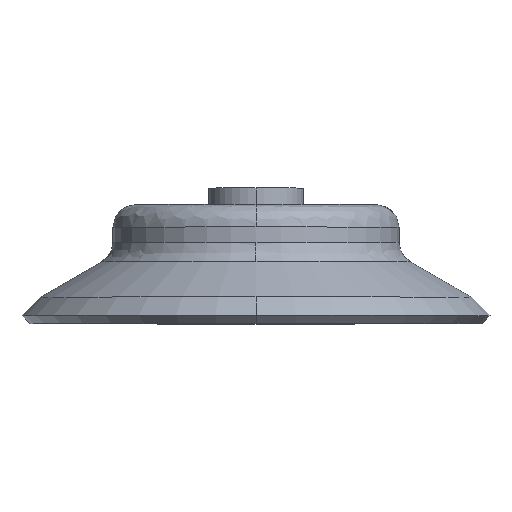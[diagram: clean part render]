
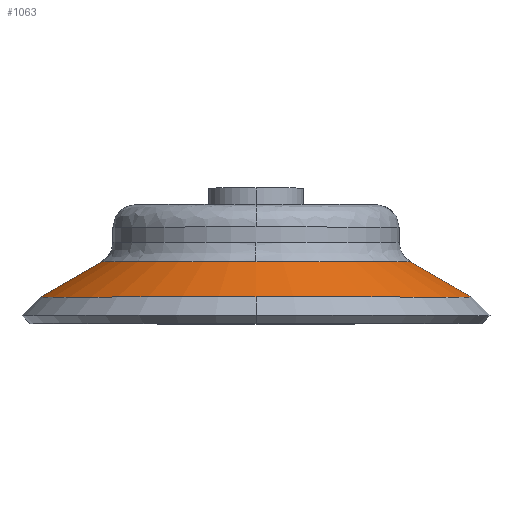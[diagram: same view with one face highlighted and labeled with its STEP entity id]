
A CAD part, top view. The second image highlights one B-rep face of the part: STEP entity #1063.
In plain terms, the highlighted conical face has half-angle 60 degrees and reference radius 20.5 mm.
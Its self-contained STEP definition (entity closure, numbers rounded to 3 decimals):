
#54 = CIRCLE ( 'NONE', #1706, 20.5 ) ;
#148 = CARTESIAN_POINT ( 'NONE',  ( -20.5, -9.811, 0. ) ) ;
#212 = EDGE_LOOP ( 'NONE', ( #2420, #2151, #1534, #1490, #1861, #1413 ) ) ;
#252 = EDGE_CURVE ( 'NONE', #2230, #609, #54, .T. ) ;
#281 = CARTESIAN_POINT ( 'NONE',  ( 0., -14.5, 28.621 ) ) ;
#282 = EDGE_CURVE ( 'NONE', #2230, #388, #1157, .T. ) ;
#344 = CARTESIAN_POINT ( 'NONE',  ( 0., -9.811, 20.5 ) ) ;
#366 = EDGE_CURVE ( 'NONE', #2108, #1849, #390, .T. ) ;
#372 = DIRECTION ( 'NONE',  ( 1., 0., 0. ) ) ;
#388 = VERTEX_POINT ( 'NONE', #1049 ) ;
#390 = CIRCLE ( 'NONE', #1580, 28.621 ) ;
#520 = CARTESIAN_POINT ( 'NONE',  ( 0., -14.5, 0. ) ) ;
#575 = CARTESIAN_POINT ( 'NONE',  ( 20.5, -9.811, 0. ) ) ;
#583 = CARTESIAN_POINT ( 'NONE',  ( -20.5, -9.811, 0. ) ) ;
#584 = DIRECTION ( 'NONE',  ( 0., -1., 0. ) ) ;
#591 = VECTOR ( 'NONE', #1312, 1000. ) ;
#609 = VERTEX_POINT ( 'NONE', #344 ) ;
#714 = CARTESIAN_POINT ( 'NONE',  ( -28.621, -14.5, 0. ) ) ;
#848 = CONICAL_SURFACE ( 'NONE', #1505, 20.5, 1.047 ) ;
#885 = VECTOR ( 'NONE', #1744, 1000. ) ;
#895 = CIRCLE ( 'NONE', #2103, 28.621 ) ;
#1039 = CIRCLE ( 'NONE', #1114, 20.5 ) ;
#1049 = CARTESIAN_POINT ( 'NONE',  ( 28.621, -14.5, 0. ) ) ;
#1063 = ADVANCED_FACE ( 'NONE', ( #2176 ), #848, .T. ) ;
#1108 = LINE ( 'NONE', #148, #591 ) ;
#1114 = AXIS2_PLACEMENT_3D ( 'NONE', #1568, #584, #372 ) ;
#1157 = LINE ( 'NONE', #2534, #885 ) ;
#1182 = DIRECTION ( 'NONE',  ( 1., 0., 0. ) ) ;
#1241 = DIRECTION ( 'NONE',  ( 0., -1., 0. ) ) ;
#1312 = DIRECTION ( 'NONE',  ( -0.866, -0.5, 0. ) ) ;
#1366 = EDGE_CURVE ( 'NONE', #388, #2108, #895, .T. ) ;
#1393 = EDGE_CURVE ( 'NONE', #1937, #1849, #1108, .T. ) ;
#1413 = ORIENTED_EDGE ( 'NONE', *, *, #252, .T. ) ;
#1420 = DIRECTION ( 'NONE',  ( 0., -1., 0. ) ) ;
#1490 = ORIENTED_EDGE ( 'NONE', *, *, #1366, .F. ) ;
#1501 = EDGE_CURVE ( 'NONE', #609, #1937, #1039, .T. ) ;
#1505 = AXIS2_PLACEMENT_3D ( 'NONE', #1808, #1420, #1182 ) ;
#1534 = ORIENTED_EDGE ( 'NONE', *, *, #366, .F. ) ;
#1568 = CARTESIAN_POINT ( 'NONE',  ( 0., -9.811, 0. ) ) ;
#1580 = AXIS2_PLACEMENT_3D ( 'NONE', #2392, #1241, #2017 ) ;
#1688 = DIRECTION ( 'NONE',  ( 0., -1., 0. ) ) ;
#1706 = AXIS2_PLACEMENT_3D ( 'NONE', #1760, #1921, #2368 ) ;
#1744 = DIRECTION ( 'NONE',  ( 0.866, -0.5, 0. ) ) ;
#1760 = CARTESIAN_POINT ( 'NONE',  ( 0., -9.811, 0. ) ) ;
#1808 = CARTESIAN_POINT ( 'NONE',  ( 0., -9.811, 0. ) ) ;
#1849 = VERTEX_POINT ( 'NONE', #714 ) ;
#1861 = ORIENTED_EDGE ( 'NONE', *, *, #282, .F. ) ;
#1921 = DIRECTION ( 'NONE',  ( 0., -1., 0. ) ) ;
#1937 = VERTEX_POINT ( 'NONE', #583 ) ;
#2017 = DIRECTION ( 'NONE',  ( 0., 0., -1. ) ) ;
#2103 = AXIS2_PLACEMENT_3D ( 'NONE', #520, #1688, #2484 ) ;
#2108 = VERTEX_POINT ( 'NONE', #281 ) ;
#2151 = ORIENTED_EDGE ( 'NONE', *, *, #1393, .T. ) ;
#2176 = FACE_OUTER_BOUND ( 'NONE', #212, .T. ) ;
#2230 = VERTEX_POINT ( 'NONE', #575 ) ;
#2368 = DIRECTION ( 'NONE',  ( 1., 0., 0. ) ) ;
#2392 = CARTESIAN_POINT ( 'NONE',  ( 0., -14.5, 0. ) ) ;
#2420 = ORIENTED_EDGE ( 'NONE', *, *, #1501, .T. ) ;
#2484 = DIRECTION ( 'NONE',  ( 0., 0., -1. ) ) ;
#2534 = CARTESIAN_POINT ( 'NONE',  ( 20.5, -9.811, 0. ) ) ;
